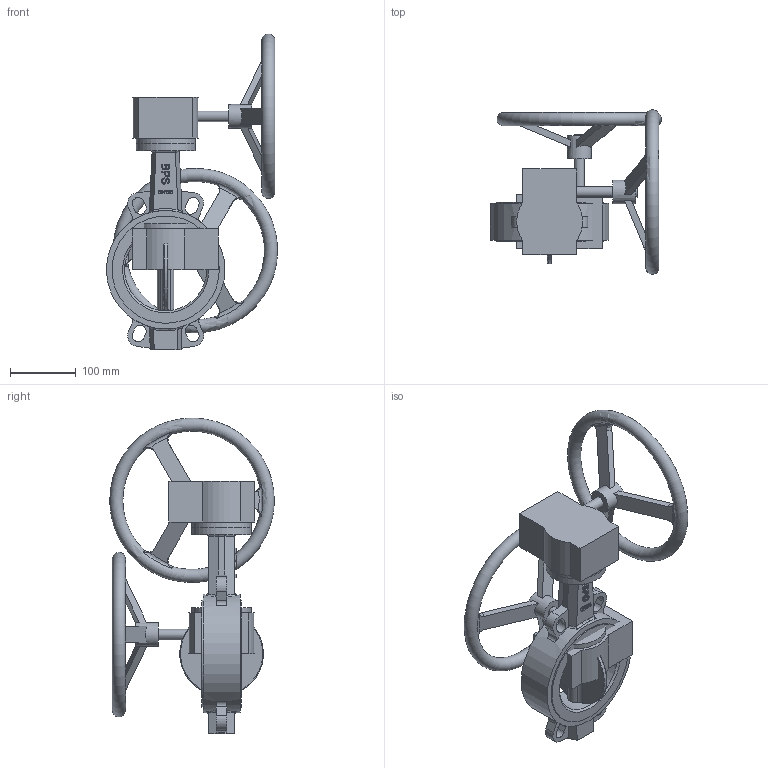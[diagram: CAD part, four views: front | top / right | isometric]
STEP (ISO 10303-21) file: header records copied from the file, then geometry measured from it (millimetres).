
FILE_DESCRIPTION( ( 'Unknown' ), '1' );
FILE_NAME( 'R:/ECCUA/ROOTSI BPS 3D vidinad/Poordklapid Wafer type/Butterfly valve(wafer) with gearbox BPS/STEP formaat/BPS 2303125VX butterfly valve DN125.stp', 'Unknown', ( 'Unknown' ), ( 'Unknown' ), 'PSStep 10.1', 'Unknown', ' ' );
FILE_SCHEMA( ( 'AUTOMOTIVE_DESIGN { 1 0 10303 214 1 1 1 1 }' ) );
Length unit declared in the file: millimetre
Products named in the file (3): Assem1; Butterfly valve wafer type DN125 BPS; Gearbox DN125-150 BPS
Bounding box: 260 x 250 x 479.97 mm (x, y, z)
Volume: 4646512 mm3; surface area: 564935.6 mm2
Topology: 4 solids, 4 shells, 490 faces, 1294 edges, 854 vertices
Faces by surface type: plane 210, extrusion 106, cylinder 102, bspline 50, torus 18, cone 4
Full cylindrical faces by diameter (mm): 9 x8, 16 x4, 36 x2, 90 x4, 125 x2, 163 x4, 180 x2
Entity records: 14819 total; most frequent: CARTESIAN_POINT 7168, ORIENTED_EDGE 1242, DIRECTION 953, EDGE_CURVE 621, VERTEX_POINT 419, VECTOR 345, EDGE_LOOP 308, AXIS2_PLACEMENT_3D 304
